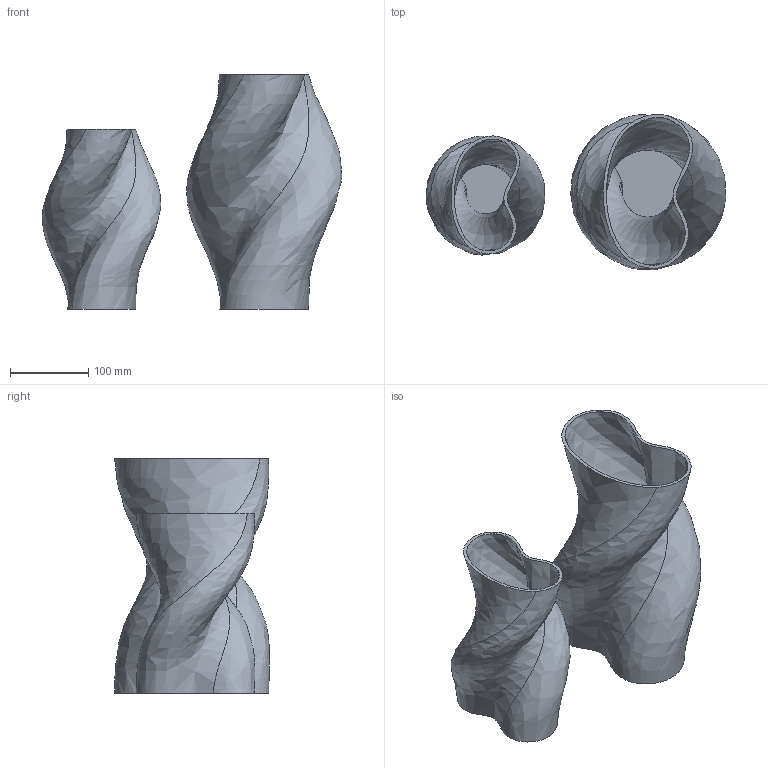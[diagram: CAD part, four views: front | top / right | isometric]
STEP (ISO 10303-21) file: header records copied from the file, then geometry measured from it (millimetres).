
FILE_DESCRIPTION(/* description */ (''),/* implementation_level */ '2;1');
FILE_NAME(/* name */ 'Guastalla',/* time_stamp */ '2025-07-10T12:31:44+02:00',/* author */ (''),/* organization */ (''),/* preprocessor_version */ 'ST-DEVELOPER v16.5',/* originating_system */ 'Rhino 7.37',/* authorisation */ '');
FILE_SCHEMA (('AUTOMOTIVE_DESIGN'));
Length unit declared in the file: millimetre
Products named in the file (1): Document
Bounding box: 383.6 x 198.46 x 300 mm (x, y, z)
Volume: 1139436.2 mm3; surface area: 562451.4 mm2
Topology: 2 solids, 2 shells, 14 faces, 24 edges, 16 vertices
Faces by surface type: bspline 8, plane 6
Entity records: 6859 total; most frequent: CARTESIAN_POINT 6630, ORIENTED_EDGE 48, EDGE_CURVE 24, B_SPLINE_CURVE_WITH_KNOTS 24, EDGE_LOOP 16, VERTEX_POINT 16, ADVANCED_FACE 14, FACE_OUTER_BOUND 14
